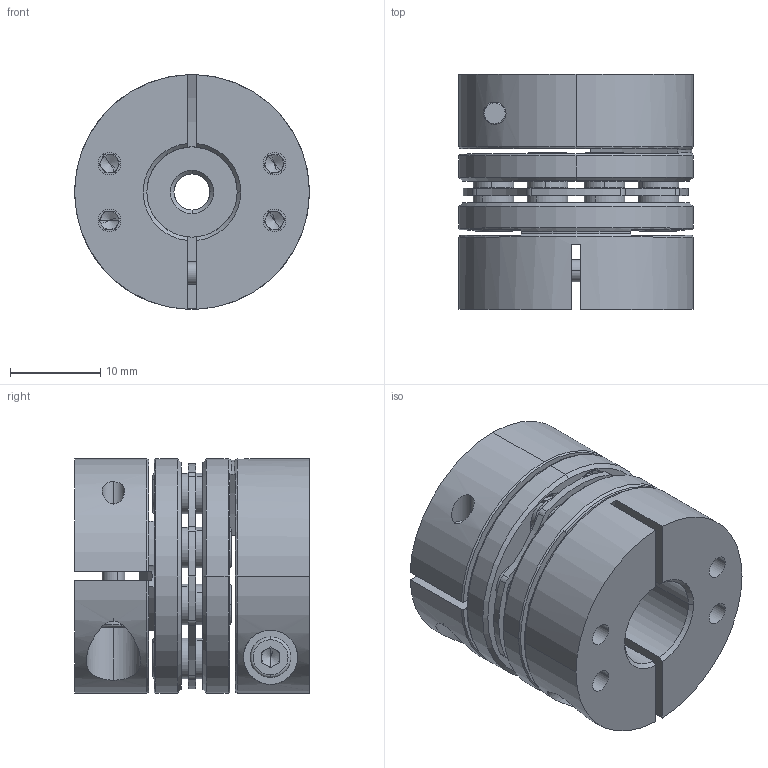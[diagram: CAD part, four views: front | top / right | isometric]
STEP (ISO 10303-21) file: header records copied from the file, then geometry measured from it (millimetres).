
FILE_DESCRIPTION (( 'STEP AP203' ), '1' );
FILE_NAME ('LDG-D26-4-10.STEP', '2021-10-28T03:21:01', ( '' ), ( '' ), 'SwSTEP 2.0', 'SolidWorks 2018', '' );
FILE_SCHEMA (( 'CONFIG_CONTROL_DESIGN' ));
Length unit declared in the file: millimetre
Products named in the file (2): 錨璃2^LDG-D26蚾饜芞1; LDG-D26-4-10
Assembly tree (1 placements, depth 2):
  LDG-D26-4-10
    錨璃2^LDG-D26蚾饜芞1
Bounding box: 26 x 26 x 26 mm (x, y, z)
Volume: 10222.6 mm3; surface area: 9046.6 mm2
Topology: 1 solids, 21 shells, 765 faces, 1872 edges, 1159 vertices
Faces by surface type: cylinder 301, plane 244, cone 200, torus 20
Entity records: 23059 total; most frequent: DIRECTION 4281, CARTESIAN_POINT 4166, ORIENTED_EDGE 3688, EDGE_CURVE 1844, AXIS2_PLACEMENT_3D 1740, VERTEX_POINT 1159, CIRCLE 971, EDGE_LOOP 909
